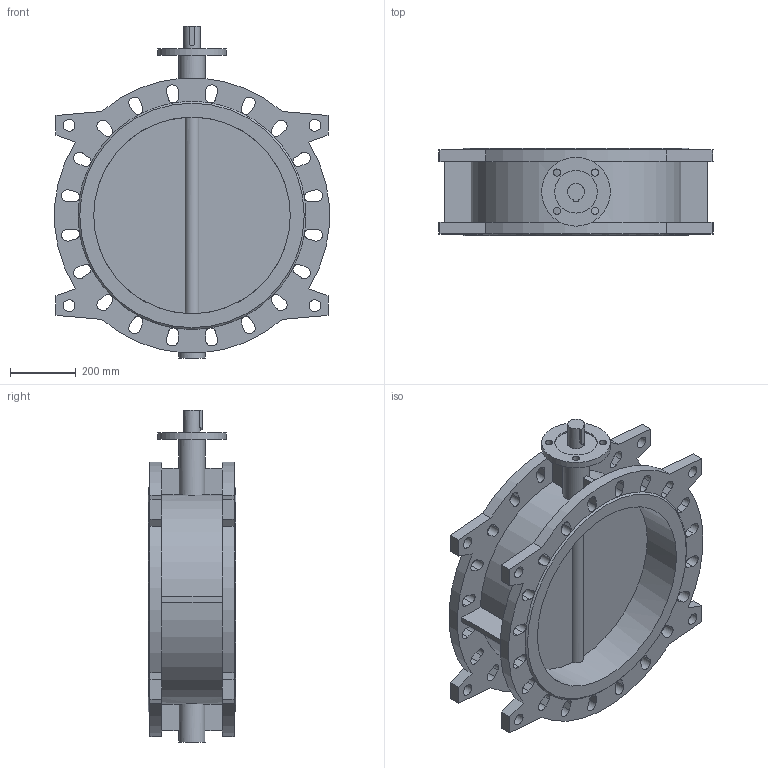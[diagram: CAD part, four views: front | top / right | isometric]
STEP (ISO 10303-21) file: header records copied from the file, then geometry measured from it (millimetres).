
FILE_DESCRIPTION(('STEP AP203'), '1');
FILE_NAME('Çàòâîð 021F.Y DN600 PN10_16 ïîä ÝÏ', '', ('UNSPECIFIED'), ('UNSPECIFIED'), 'ASCON STEP Converter 1.6', 'ASCON Math Kernel', '');
FILE_SCHEMA(('CONFIG_CONTROL_DESIGN'));
Length unit declared in the file: millimetre
Bounding box: 837.31 x 267 x 1013 mm (x, y, z)
Volume: 34922260.2 mm3; surface area: 3134177.2 mm2
Topology: 1 solids, 1 shells, 256 faces, 815 edges, 530 vertices
Faces by surface type: plane 140, cylinder 114, cone 2
Full cylindrical faces by diameter (mm): 22 x4, 36 x8, 50.7 x1, 80 x2, 130 x1, 210 x1, 600 x2
Entity records: 12094 total; most frequent: CARTESIAN_POINT 2473, DIRECTION 1579, ORIENTED_EDGE 1556, EDGE_CURVE 778, AXIS2_PLACEMENT_3D 555, VERTEX_POINT 522, LINE 469, VECTOR 469
